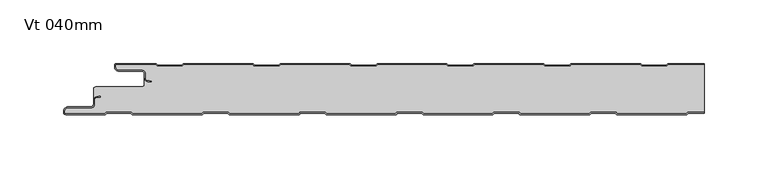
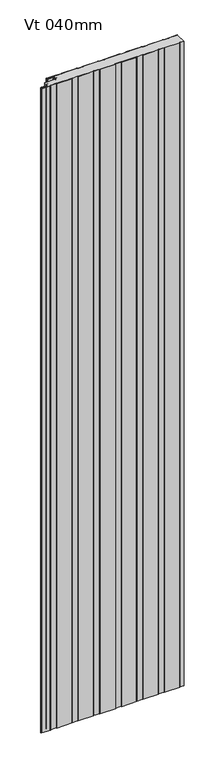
"""IFC4 building model written with IfcOpenShell, lengths in millimetres: plate geometry, KIP-MEX-FW-R19-CP-Vt-SL : Vt 040mm."""

from ifc_helpers import new_model, si_unit, point, frame_2d, origin, origin_with_axes, place, context, project, spatial, polyline, circle_curve, trimmed, segment, composite_curve, outline, extrude, source, transform, mapped, element, save


def vt_040mm_9a58fd77(model_context):
    return source(origin(), model_context, "Body", "SweptSolid", [
        extrude(outline(composite_curve([segment(polyline([(211.6678755, -1.0014651), (239.9783151, -1.0014651), (239.9783151, -37.8014618), (226.7847182, -37.8014618), (225.6981939, -39.0009609), (171.6503361, -39.0009609), (170.5638118, -37.8014618), (150.6318335, -37.8014618), (149.5453092, -39.0009609), (95.4974513, -39.0009609), (94.410927, -37.8014618), (74.4789487, -37.8014618), (73.3924244, -39.0009609), (19.3445665, -39.0009609), (18.2580423, -37.8014618), (-1.6739361, -37.8014618), (-2.7604603, -39.0009609), (-56.8083182, -39.0009609), (-57.8948425, -37.8014618), (-77.8268208, -37.8014618), (-78.9133451, -39.0009609), (-132.961203, -39.0009609), (-134.0477273, -37.8014618), (-153.9797056, -37.8014618), (-155.0662299, -39.0009609), (-209.1112366, -39.0009609), (-210.1991864, -37.799888), (-230.1311648, -37.799888), (-231.217689, -38.9993871), (-262.5021469, -38.9993871), (-262.5021469, -37.5006639)]), True, "CONTINUOUS"), segment(trimmed(circle_curve(frame_2d((-260.0023506, -37.5006639)), 2.4997964), [point((-262.5021469, -37.5006639))], [point((-260.0023506, -35.0008676))], False, "CARTESIAN"), True, "CONTINUOUS"), segment(polyline([(-260.0023506, -35.0008676), (-242.0013906, -35.0008676)]), True, "CONTINUOUS"), segment(trimmed(circle_curve(frame_2d((-242.0013906, -32.000146)), 3.0007216), [point((-242.0013906, -35.0008676))], [point((-239.0006699, -32.0023906))], True, "CARTESIAN"), True, "CONTINUOUS"), segment(polyline([(-239.0006699, -32.0023906), (-239.0006699, -28.4060224)]), True, "CONTINUOUS"), segment(trimmed(circle_curve(frame_2d((-237.5002997, -28.4060224)), 1.5003702), [point((-239.0006699, -28.4060224))], [point((-237.7599012, -26.9282816))], False, "CARTESIAN"), True, "CONTINUOUS"), segment(polyline([(-237.7599012, -26.9282816), (-234.2177272, -26.3060118), (-234.3907149, -25.321306), (-237.9325334, -25.9435134)]), True, "CONTINUOUS"), segment(trimmed(circle_curve(frame_2d((-237.4999649, -28.4058419)), 2.5000354), [point((-237.9325334, -25.9435134))], [point((-239.9999998, -28.4043575))], True, "CARTESIAN"), True, "CONTINUOUS"), segment(polyline([(-239.9999998, -28.4043575), (-239.9999998, -20.2508434)]), True, "CONTINUOUS"), segment(trimmed(circle_curve(frame_2d((-237.9999882, -20.2508434)), 2.0000117), [point((-239.9999998, -20.2508434))], [point((-237.9999882, -18.2508317))], False, "CARTESIAN"), True, "CONTINUOUS"), segment(polyline([(-237.9999882, -18.2508317), (-201.9999858, -18.2508317)]), True, "CONTINUOUS"), segment(trimmed(circle_curve(frame_2d((-201.9999858, -16.2508396)), 1.9999921), [point((-201.9999858, -18.2508317))], [point((-199.9999938, -16.2508396))], True, "CARTESIAN"), True, "CONTINUOUS"), segment(polyline([(-199.9999938, -16.2508396), (-199.9999938, -11.5969833)]), True, "CONTINUOUS"), segment(trimmed(circle_curve(frame_2d((-197.4999719, -11.5955126)), 2.5000223), [point((-199.9999938, -11.5969833))], [point((-197.9325369, -14.0578284))], True, "CARTESIAN"), True, "CONTINUOUS"), segment(polyline([(-197.9325369, -14.0578284), (-194.3907161, -14.6800343), (-194.217729, -13.6953293), (-197.7599066, -13.0730607)]), True, "CONTINUOUS"), segment(trimmed(circle_curve(frame_2d((-197.500308, -11.5953315)), 1.5003583), [point((-197.7599066, -13.0730607))], [point((-199.0006662, -11.5953315))], False, "CARTESIAN"), True, "CONTINUOUS"), segment(polyline([(-199.0006662, -11.5953315), (-199.0006662, -7.9991027)]), True, "CONTINUOUS"), segment(trimmed(circle_curve(frame_2d((-202.0013894, -8.0011955)), 3.0007239), [point((-199.0006662, -7.9991027))], [point((-202.0013894, -5.0004716))], True, "CARTESIAN"), True, "CONTINUOUS"), segment(polyline([(-202.0013894, -5.0004716), (-220.0023522, -5.0004716)]), True, "CONTINUOUS"), segment(trimmed(circle_curve(frame_2d((-220.0023522, -2.5006761)), 2.4997955), [point((-220.0023522, -5.0004716))], [point((-222.5021465, -2.4982924))], False, "CARTESIAN"), True, "CONTINUOUS"), segment(polyline([(-222.5021465, -2.4982924), (-222.5021465, -1.0030389), (-191.2001496, -1.0030389), (-190.1136253, -2.202538), (-170.181647, -2.202538), (-169.0936972, -1.0014651), (-115.0486904, -1.0014651), (-113.9621662, -2.2009642), (-94.0301878, -2.2009642), (-92.9436635, -1.0014651), (-38.8958057, -1.0014651), (-37.8092814, -2.2009642), (-17.8773031, -2.2009642), (-16.7922046, -1.0014651), (37.2570791, -1.0014651), (38.3436034, -2.2009642), (58.2755817, -2.2009642), (59.3606802, -1.0014651), (113.4099638, -1.0014651), (114.4964881, -2.2009642), (134.4284665, -2.2009642), (135.5149907, -1.0014651), (189.5628486, -1.0014651), (190.6493729, -2.2009642), (210.5813512, -2.2009642), (211.6678755, -1.0014651)]), True, "CONTINUOUS")], self_intersect=False)), origin_with_axes(), (0.0, 0.0, 1.0), 2400.0),
        extrude(outline(composite_curve([segment(polyline([(211.2244311, -0.000497), (239.9783151, -0.000497), (239.9783151, -0.9989232), (211.6664497, -0.9989232), (210.5813512, -2.1984224), (190.6493729, -2.1984224), (189.5628486, -0.9989232), (135.513565, -0.9989232), (134.4284665, -2.1984224), (114.4964881, -2.1984224), (113.4099638, -0.9989232), (59.362106, -0.9989232), (58.2755817, -2.1984224), (38.3436034, -2.1984224), (37.2570791, -0.9989232), (-16.7907788, -0.9989232), (-17.8773031, -2.1984224), (-37.8092814, -2.1984224), (-38.8958057, -0.9989232), (-92.9436635, -0.9989232), (-94.0301878, -2.1984224), (-113.9621662, -2.1984224), (-115.0486904, -0.9989232), (-169.0936972, -0.9989232), (-170.181647, -2.1999962), (-190.1136253, -2.1999962), (-191.1987717, -0.9983019), (-222.5021492, -0.9983019), (-222.5021492, -2.4981361)]), True, "CONTINUOUS"), segment(trimmed(circle_curve(frame_2d((-220.0023514, -2.4981361)), 2.4997977), [point((-222.5021492, -2.4981361))], [point((-220.0023514, -4.9979338))], True, "CARTESIAN"), True, "CONTINUOUS"), segment(polyline([(-220.0023514, -4.9979338), (-202.0013972, -4.9979338)]), True, "CONTINUOUS"), segment(trimmed(circle_curve(frame_2d((-202.0013972, -7.9986497)), 3.0007159), [point((-202.0013972, -4.9979338))], [point((-199.0006821, -7.996557))], False, "CARTESIAN"), True, "CONTINUOUS"), segment(polyline([(-199.0006821, -7.996557), (-199.0006821, -11.5928161)]), True, "CONTINUOUS"), segment(trimmed(circle_curve(frame_2d((-197.5002992, -11.5928161)), 1.5003829), [point((-199.0006821, -11.5928161))], [point((-197.7598386, -13.0705807))], True, "CARTESIAN"), True, "CONTINUOUS"), segment(polyline([(-197.7598386, -13.0705807), (-194.2177319, -13.69268), (-194.3907142, -14.6776058), (-197.9328222, -14.0555062)]), True, "CONTINUOUS"), segment(trimmed(circle_curve(frame_2d((-197.5003004, -11.5928154)), 2.5003842), [point((-197.9328222, -14.0555062))], [point((-200.0006841, -11.5942862))], False, "CARTESIAN"), True, "CONTINUOUS"), segment(polyline([(-200.0006841, -11.5942862), (-200.0006841, -7.9971513)]), True, "CONTINUOUS"), segment(trimmed(circle_curve(frame_2d((-202.0013948, -7.9986553)), 2.0007112), [point((-200.0006841, -7.9971513))], [point((-202.0013948, -5.9979441))], True, "CARTESIAN"), True, "CONTINUOUS"), segment(polyline([(-202.0013948, -5.9979441), (-220.0023716, -5.9979441)]), True, "CONTINUOUS"), segment(trimmed(circle_curve(frame_2d((-220.0023716, -2.4981261)), 3.499818), [point((-220.0023716, -5.9979441))], [point((-223.5021896, -2.4981261))], False, "CARTESIAN"), True, "CONTINUOUS"), segment(polyline([(-223.5021896, -2.4981261), (-223.5021896, -1.4982802)]), True, "CONTINUOUS"), segment(trimmed(circle_curve(frame_2d((-222.0022448, -1.4982802)), 1.4999449), [point((-223.5021896, -1.4982802))], [point((-221.8959818, -0.0021042))], False, "CARTESIAN"), True, "CONTINUOUS"), segment(polyline([(-221.8959818, -0.0021042), (-190.7552797, -0.0021042), (-189.670181, -1.1999962), (-170.6250914, -1.1999962), (-169.5385671, -0.000497), (-114.6038205, -0.000497), (-113.5187218, -1.1984224), (-94.4736322, -1.1984224), (-93.3871079, -0.000497), (-38.4509357, -0.000497), (-37.365837, -1.1984224), (-18.3207474, -1.1984224), (-17.2342232, -0.000497), (37.701949, -0.000497), (38.7870477, -1.1984224), (57.8321373, -1.1984224), (58.9186616, -0.000497), (113.8548338, -0.000497), (114.9399325, -1.1984224), (133.9850221, -1.1984224), (135.0715464, -0.000497), (190.0077186, -0.000497), (191.0928173, -1.1984224), (210.1379068, -1.1984224), (211.2244311, -0.000497)]), True, "CONTINUOUS")], self_intersect=False)), origin_with_axes(), (0.0, 0.0, 1.0), 2400.0),
        extrude(outline(composite_curve([segment(polyline([(226.7847182, -37.8009978), (239.9783151, -37.8009978), (239.9783151, -38.8009978), (227.2281626, -38.8009978), (226.1430639, -40.000497), (171.2068917, -40.000497), (170.1203674, -38.8009978), (151.0752778, -38.8009978), (149.9901791, -40.000497), (95.0540069, -40.000497), (93.9674826, -38.8009978), (74.9223931, -38.8009978), (73.8372944, -40.000497), (18.9011222, -40.000497), (17.8145979, -38.8009978), (-1.2304917, -38.8009978), (-2.3155904, -40.000497), (-57.2517626, -40.000497), (-58.3382869, -38.8009978), (-77.3833765, -38.8009978), (-78.4684752, -40.000497), (-133.4046474, -40.000497), (-134.4911716, -38.8009978), (-153.5362612, -38.8009978), (-154.6213599, -39.9989232), (-209.5561065, -39.9989232), (-210.6426308, -38.799424), (-229.6877204, -38.799424), (-230.7728191, -40.0), (-262.0022443, -40.0)]), True, "CONTINUOUS"), segment(trimmed(circle_curve(frame_2d((-262.0022443, -38.5000545)), 1.4999455), [point((-262.0022443, -40.0))], [point((-263.5021897, -38.5000545))], False, "CARTESIAN"), True, "CONTINUOUS"), segment(polyline([(-263.5021897, -38.5000545), (-263.5021897, -37.5002085)]), True, "CONTINUOUS"), segment(trimmed(circle_curve(frame_2d((-260.0023705, -37.5002085)), 3.4998192), [point((-263.5021897, -37.5002085))], [point((-260.0023705, -34.0003893))], False, "CARTESIAN"), True, "CONTINUOUS"), segment(polyline([(-260.0023705, -34.0003893), (-242.0013958, -34.0003893)]), True, "CONTINUOUS"), segment(trimmed(circle_curve(frame_2d((-242.0013958, -31.9996807)), 2.0007086), [point((-242.0013958, -34.0003893))], [point((-240.0006878, -32.0011773))], True, "CARTESIAN"), True, "CONTINUOUS"), segment(polyline([(-240.0006878, -32.0011773), (-240.0006878, -28.4040483)]), True, "CONTINUOUS"), segment(trimmed(circle_curve(frame_2d((-237.5002923, -28.4055328)), 2.500396), [point((-240.0006878, -28.4040483))], [point((-237.9328177, -25.9428306))], False, "CARTESIAN"), True, "CONTINUOUS"), segment(polyline([(-237.9328177, -25.9428306), (-234.390713, -25.3207292), (-234.2177301, -26.3056549), (-237.7598334, -26.927756)]), True, "CONTINUOUS"), segment(trimmed(circle_curve(frame_2d((-237.500291, -28.405532)), 1.5003947), [point((-237.7598334, -26.927756))], [point((-239.0006856, -28.405532))], True, "CARTESIAN"), True, "CONTINUOUS"), segment(polyline([(-239.0006856, -28.405532), (-239.0006856, -32.0019305)]), True, "CONTINUOUS"), segment(trimmed(circle_curve(frame_2d((-242.0013985, -31.9996859)), 3.0007137), [point((-239.0006856, -32.0019305))], [point((-242.0013985, -35.0003996))], False, "CARTESIAN"), True, "CONTINUOUS"), segment(polyline([(-242.0013985, -35.0003996), (-260.0023498, -35.0003996)]), True, "CONTINUOUS"), segment(trimmed(circle_curve(frame_2d((-260.0023498, -37.5001981)), 2.4997986), [point((-260.0023498, -35.0003996))], [point((-262.5021484, -37.5001981))], True, "CARTESIAN"), True, "CONTINUOUS"), segment(polyline([(-262.5021484, -37.5001981), (-262.5021484, -38.9989232), (-231.217689, -38.9989232), (-230.1311648, -37.799424), (-210.1991864, -37.799424), (-209.1112366, -39.000497), (-155.0662299, -39.000497), (-153.9797056, -37.8009978), (-134.0477273, -37.8009978), (-132.961203, -39.000497), (-78.9133451, -39.000497), (-77.8268208, -37.8009978), (-57.8948425, -37.8009978), (-56.8083182, -39.000497), (-2.7604603, -39.000497), (-1.6739361, -37.8009978), (18.2580423, -37.8009978), (19.3445665, -39.000497), (73.3924244, -39.000497), (74.4789487, -37.8009978), (94.410927, -37.8009978), (95.4974513, -39.000497), (149.5453092, -39.000497), (150.6318335, -37.8009978), (170.5638118, -37.8009978), (171.6503361, -39.000497), (225.6981939, -39.000497), (226.7847182, -37.8009978)]), True, "CONTINUOUS")], self_intersect=False)), origin_with_axes(), (0.0, 0.0, 1.0), 2400.0),
    ])


if __name__ == "__main__":
    model = new_model("IFC4")
    model_context = context("Model", 3, world=origin())
    ifc_project = project(units=[si_unit("LENGTHUNIT", "METRE", prefix="MILLI")], contexts=[model_context])
    site = spatial("IfcSite", under=ifc_project)
    building = spatial("IfcBuilding", under=site)
    placement = place(None, origin())
    vt_040mm_shape = vt_040mm_9a58fd77(model_context)
    element("IfcPlate", 1, ObjectType="KIP-MEX-FW-R19-CP-Vt-SL : Vt 040mm", at=placement, inside=building, context=model_context, shape_type="MappedRepresentation", body=[
        mapped(vt_040mm_shape, transform((0.0, 0.0, 0.0), x_axis=(1.0, 0.0, 0.0), y_axis=(0.0, 1.0, 0.0), z_axis=(0.0, 0.0, 1.0))),
    ])
    save(model, "model.ifc")
